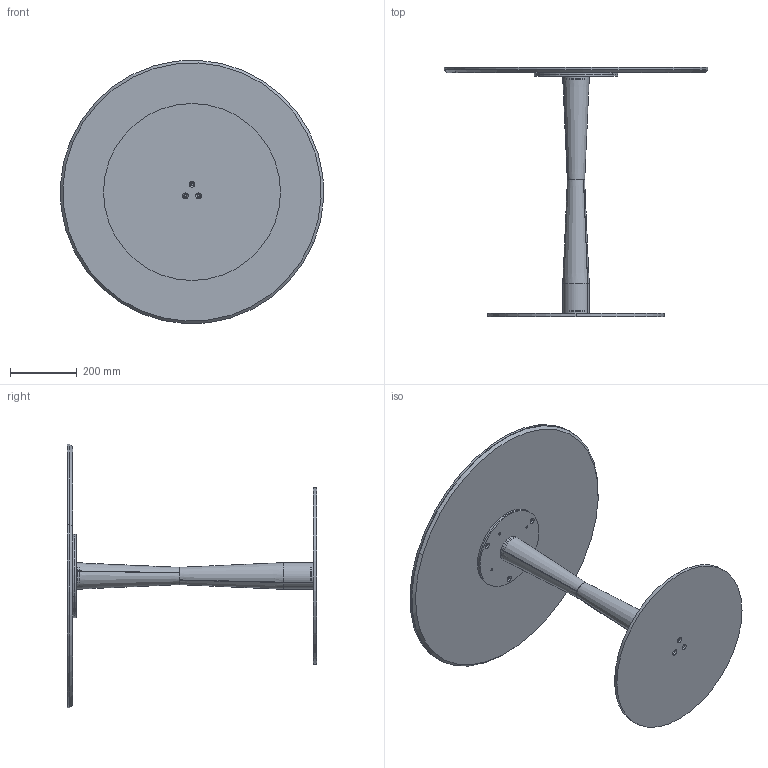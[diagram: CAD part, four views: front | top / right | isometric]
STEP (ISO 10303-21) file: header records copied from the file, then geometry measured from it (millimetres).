
FILE_DESCRIPTION (( 'STEP AP203' ), '1' );
FILE_NAME ('FI12C.STEP', '2024-08-08T07:58:33', ( '' ), ( '' ), 'SwSTEP 2.0', 'SolidWorks 2022', '' );
FILE_SCHEMA (( 'CONFIG_CONTROL_DESIGN' ));
Length unit declared in the file: millimetre
Products named in the file (10): CBS200000PST-00-CONTROPIASTRA PER PIASTRA D.25cm GREZZO_250; K1XCMXX-00-Piani Rotondi in ceramica_D.790; P0000003-00-STAFFA DI FISSAGGIO DIAMETRO 250_P0000003-250mm normale; FIL000000_02-00-Tubo Conificato inferiore_tagliato; KXXCXX-00-Piani Rotondi in ceramica CON PIASTRA_K12P PIANO CERAMICA D.79cm; FIL000000COL-01-FILU'' COLONNA CENTRALE; FI12C; CBS000000BAS-00-BISTRO PIASTRA INFERIORE_D.530; FIL000000_01-00-Tubo Conificato superiore_tagliato; FIL000000_03-00-Piastra per Tubi conificati FILU
Assembly tree (10 placements, depth 3):
  FI12C
    CBS000000BAS-00-BISTRO PIASTRA INFERIORE_D.530
    CBS200000PST-00-CONTROPIASTRA PER PIASTRA D.25cm GREZZO_250
    FIL000000COL-01-FILU'' COLONNA CENTRALE
      FIL000000_02-00-Tubo Conificato inferiore_tagliato
      FIL000000_01-00-Tubo Conificato superiore_tagliato
      FIL000000_03-00-Piastra per Tubi conificati FILU  x2
    KXXCXX-00-Piani Rotondi in ceramica CON PIASTRA_K12P PIANO CERAMICA D.79cm
      K1XCMXX-00-Piani Rotondi in ceramica_D.790
      P0000003-00-STAFFA DI FISSAGGIO DIAMETRO 250_P0000003-250mm normale
Bounding box: 788.98 x 747 x 788.98 mm (x, y, z)
Volume: 10837760.6 mm3; surface area: 2967619.7 mm2
Topology: 9 solids, 9 shells, 120 faces, 274 edges, 172 vertices
Faces by surface type: cylinder 66, cone 36, plane 18
Entity records: 4332 total; most frequent: DIRECTION 656, CARTESIAN_POINT 531, ORIENTED_EDGE 500, AXIS2_PLACEMENT_3D 281, EDGE_CURVE 250, VERTEX_POINT 156, EDGE_LOOP 156, CIRCLE 156
